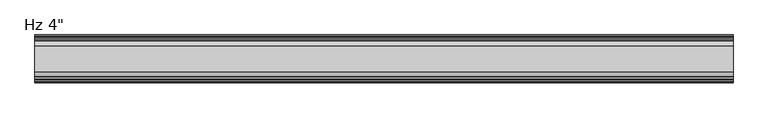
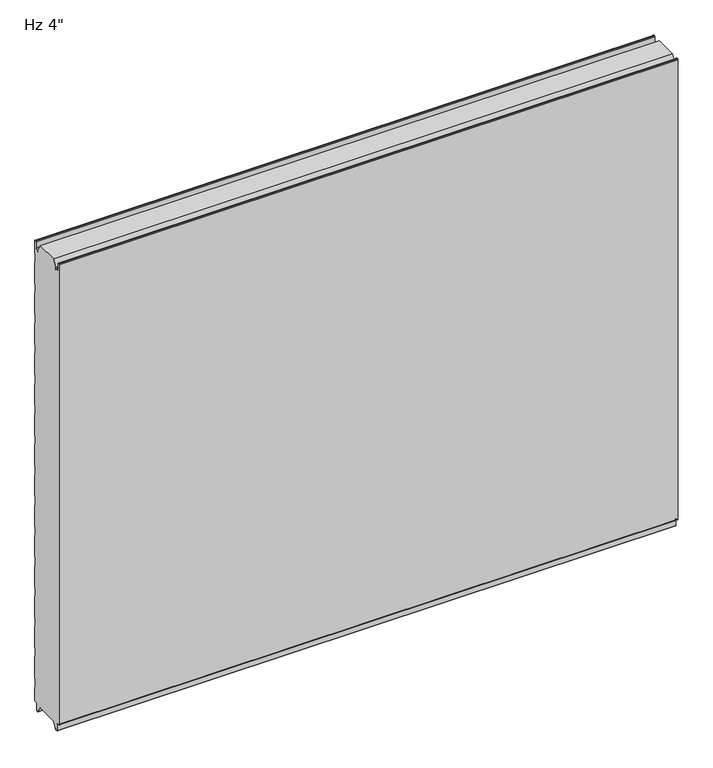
"""IFC4 building model written with IfcOpenShell, lengths in millimetres: plate geometry."""

from ifc_helpers import new_model, si_unit, frame, origin, place, context, project, spatial, polyline, circle_curve, source, transform, mapped, element, save
from ifc_brep_helpers import plane_surface, cylinder_surface, revolved_surface, advanced_brep


def plate_d1124c66(model_context):
    return source(origin(), model_context, "Body", "AdvancedBrep", [
        advanced_brep(
        [(-730.0, -98.6227194, 3.8499499), (-730.0, -100.5999935, 5.8272239), (-730.0, -100.6, 1150.8100652), (-730.0, -98.6227315, 1152.7873337), (-730.0, -97.5806329, 1152.7873337), (-730.0, -95.6033643, 1150.8100652), (-730.0, -95.6033643, 1136.6216802), (-730.0, -93.0154878, 1134.0338036), (-730.0, -88.6950697, 1134.0338036), (-730.0, -88.1060762, 1133.4253365), (-730.0, -88.1060762, 1131.0482432), (-730.0, -87.1066023, 1131.0482432), (-730.0, -87.1066023, 1136.4905123), (-730.0, -77.8490865, 1152.525), (-730.0, -23.7509179, 1152.525), (-730.0, -14.4934021, 1136.4905123), (-730.0, -14.4934021, 1131.0482432), (-730.0, -13.4939282, 1131.0482432), (-730.0, -13.4939282, 1133.4253365), (-730.0, -12.9049347, 1134.0338036), (-730.0, -8.5845165, 1134.0338036), (-730.0, -5.99664, 1136.6216802), (-730.0, -5.99664, 1150.8100652), (-730.0, -4.0193715, 1152.7873337), (-730.0, -2.9772729, 1152.7873337), (-730.0, -1.0000044, 1150.8100652), (-730.0, -1.0000044, 1118.6385351), (-730.0, -2.1911595, 1117.5660142), (-730.0, -2.1911595, 1097.7830195), (-730.0, -1.0, 1096.7104947), (-730.0, -1.0, 1043.0159187), (-730.0, -2.1911595, 1041.9433939), (-730.0, -2.1911595, 1022.1603992), (-730.0, -1.0, 1021.0878744), (-730.0, -1.0, 967.3932985), (-730.0, -2.1911595, 966.3207736), (-730.0, -2.1911595, 946.537779), (-730.0, -1.0, 945.4652541), (-730.0, -1.0, 891.7706782), (-730.0, -2.1911595, 890.6981534), (-730.0, -2.1911595, 870.9151587), (-730.0, -1.0, 869.8426339), (-730.0, -1.0, 816.148058), (-730.0, -2.1911595, 815.0755331), (-730.0, -2.1911595, 795.2925384), (-730.0, -1.0, 794.2200136), (-730.0, -1.0, 740.5254377), (-730.0, -2.1911595, 739.4529129), (-730.0, -2.1911595, 719.6699182), (-730.0, -1.0, 718.5973933), (-730.0, -1.0, 664.9028174), (-730.0, -2.1911595, 663.8302926), (-730.0, -2.1911595, 644.0472979), (-730.0, -1.0, 642.9747731), (-730.0, -1.0, 589.2801972), (-730.0, -2.1911595, 588.2076723), (-730.0, -2.1911595, 568.4246776), (-730.0, -1.0, 567.3521528), (-730.0, -1.0, 513.6575769), (-730.0, -2.1911595, 512.5850521), (-730.0, -2.1911595, 492.8020574), (-730.0, -1.0, 491.7295325), (-730.0, -1.0, 438.0349566), (-730.0, -2.1911595, 436.9624318), (-730.0, -2.1911595, 417.1794371), (-730.0, -1.0, 416.1069123), (-730.0, -1.0, 362.4123364), (-730.0, -2.1911595, 361.3398115), (-730.0, -2.1911595, 341.5568169), (-730.0, -1.0, 340.484292), (-730.0, -1.0, 286.7897161), (-730.0, -2.1911595, 285.7171913), (-730.0, -2.1911595, 265.9341966), (-730.0, -1.0, 264.8616718), (-730.0, -1.0, 211.1670958), (-730.0, -2.1911595, 210.094571), (-730.0, -2.1911595, 190.3115763), (-730.0, -1.0, 189.2390515), (-730.0, -1.0, 135.5444756), (-730.0, -2.1911595, 134.4719507), (-730.0, -2.1911595, 114.6889561), (-730.0, -1.0, 113.6164312), (-730.0, -1.0, 59.9218553), (-730.0, -2.1911595, 58.8493305), (-730.0, -2.1911595, 39.0663358), (-730.0, -1.0000109, 37.993811), (-730.0, -1.0000109, 5.8272239), (-730.0, -2.9772849, 3.8499499), (-730.0, -5.2691749, 3.8499499), (-730.0, -9.246442, -0.1273173), (-730.0, -9.246442, -15.7237417), (-730.0, -9.8343189, -16.3116186), (-730.0, -12.9058679, -16.3116186), (-730.0, -13.4937446, -15.723742), (-730.0, -13.4937446, -13.3687064), (-730.0, -14.4937446, -13.3687064), (-730.0, -14.4937446, -15.6582851), (-730.0, -23.7509179, 0.0), (-730.0, -77.8490865, 0.0), (-730.0, -87.1062598, -15.6582851), (-730.0, -87.1062598, -13.3687064), (-730.0, -88.1062598, -13.3687064), (-730.0, -88.1062598, -15.723742), (-730.0, -88.6941365, -16.3116186), (-730.0, -91.7656854, -16.3116186), (-730.0, -92.3535623, -15.7237417), (-730.0, -92.3535623, -0.1273173), (-730.0, -96.3308295, 3.8499499), (730.0, -98.6227194, 3.8499499), (730.0, -96.3308295, 3.8499499), (730.0, -92.3535623, -0.1273173), (730.0, -92.3535623, -15.7237417), (730.0, -91.7656854, -16.3116186), (730.0, -88.6941365, -16.3116186), (730.0, -88.1062598, -15.723742), (730.0, -88.1062598, -13.3687064), (730.0, -87.1062598, -13.3687064), (730.0, -87.1062598, -15.6582851), (730.0, -77.8490865, 0.0), (730.0, -23.7509179, 0.0), (730.0, -14.4937446, -15.6582851), (730.0, -14.4937446, -13.3687064), (730.0, -13.4937446, -13.3687064), (730.0, -13.4937446, -15.723742), (730.0, -12.9058679, -16.3116186), (730.0, -9.8343189, -16.3116186), (730.0, -9.246442, -15.7237417), (730.0, -9.246442, -0.1273173), (730.0, -5.2691749, 3.8499499), (730.0, -2.9772849, 3.8499499), (730.0, -1.0000109, 5.8272239), (730.0, -1.0000109, 37.993811), (730.0, -2.1911595, 39.0663358), (730.0, -2.1911595, 58.8493305), (730.0, -1.0, 59.9218553), (730.0, -1.0, 113.6164312), (730.0, -2.1911595, 114.6889561), (730.0, -2.1911595, 134.4719507), (730.0, -1.0, 135.5444756), (730.0, -1.0, 189.2390515), (730.0, -2.1911595, 190.3115763), (730.0, -2.1911595, 210.094571), (730.0, -1.0, 211.1670958), (730.0, -1.0, 264.8616718), (730.0, -2.1911595, 265.9341966), (730.0, -2.1911595, 285.7171913), (730.0, -1.0, 286.7897161), (730.0, -1.0, 340.484292), (730.0, -2.1911595, 341.5568169), (730.0, -2.1911595, 361.3398115), (730.0, -1.0, 362.4123364), (730.0, -1.0, 416.1069123), (730.0, -2.1911595, 417.1794371), (730.0, -2.1911595, 436.9624318), (730.0, -1.0, 438.0349566), (730.0, -1.0, 491.7295325), (730.0, -2.1911595, 492.8020574), (730.0, -2.1911595, 512.5850521), (730.0, -1.0, 513.6575769), (730.0, -1.0, 567.3521528), (730.0, -2.1911595, 568.4246776), (730.0, -2.1911595, 588.2076723), (730.0, -1.0, 589.2801972), (730.0, -1.0, 642.9747731), (730.0, -2.1911595, 644.0472979), (730.0, -2.1911595, 663.8302926), (730.0, -1.0, 664.9028174), (730.0, -1.0, 718.5973933), (730.0, -2.1911595, 719.6699182), (730.0, -2.1911595, 739.4529129), (730.0, -1.0, 740.5254377), (730.0, -1.0, 794.2200136), (730.0, -2.1911595, 795.2925384), (730.0, -2.1911595, 815.0755331), (730.0, -1.0, 816.148058), (730.0, -1.0, 869.8426339), (730.0, -2.1911595, 870.9151587), (730.0, -2.1911595, 890.6981534), (730.0, -1.0, 891.7706782), (730.0, -1.0, 945.4652541), (730.0, -2.1911595, 946.537779), (730.0, -2.1911595, 966.3207736), (730.0, -1.0, 967.3932985), (730.0, -1.0, 1021.0878744), (730.0, -2.1911595, 1022.1603992), (730.0, -2.1911595, 1041.9433939), (730.0, -1.0, 1043.0159187), (730.0, -1.0, 1096.7104947), (730.0, -2.1911595, 1097.7830195), (730.0, -2.1911595, 1117.5660142), (730.0, -1.0000044, 1118.6385351), (730.0, -1.0000044, 1150.8100652), (730.0, -2.9772729, 1152.7873337), (730.0, -4.0193715, 1152.7873337), (730.0, -5.99664, 1150.8100652), (730.0, -5.99664, 1136.6216802), (730.0, -8.5845165, 1134.0338036), (730.0, -12.9049347, 1134.0338036), (730.0, -13.4939282, 1133.4253365), (730.0, -13.4939282, 1131.0482432), (730.0, -14.4934021, 1131.0482432), (730.0, -14.4934021, 1136.4905123), (730.0, -23.7509179, 1152.525), (730.0, -77.8490865, 1152.525), (730.0, -87.1066023, 1136.4905123), (730.0, -87.1066023, 1131.0482432), (730.0, -88.1060762, 1131.0482432), (730.0, -88.1060762, 1133.4253365), (730.0, -88.6950697, 1134.0338036), (730.0, -93.0154878, 1134.0338036), (730.0, -95.6033643, 1136.6216802), (730.0, -95.6033643, 1150.8100652), (730.0, -97.5806329, 1152.7873337), (730.0, -98.6227315, 1152.7873337), (730.0, -100.6, 1150.8100652), (730.0, -100.6, 5.8272239)],
        [
            (0, 1, circle_curve(frame((-730.0, -98.6227194, 5.8272239), z_axis=(-1.0, 0.0, 0.0), x_axis=(0.0, 0.0, -1.0)), 1.977274)),
            (1, 2),
            (2, 3, circle_curve(frame((-730.0, -98.6227315, 1150.8100652), z_axis=(-1.0, 0.0, 0.0), x_axis=(0.0, 0.0, -1.0)), 1.9772685)),
            (3, 4),
            (4, 5, circle_curve(frame((-730.0, -97.5806329, 1150.8100652), z_axis=(-1.0, 0.0, 0.0), x_axis=(0.0, 0.0, -1.0)), 1.9772685)),
            (5, 6),
            (6, 7, circle_curve(frame((-730.0, -93.0154878, 1136.6216802), z_axis=(1.0, 0.0, 0.0), x_axis=(0.0, 0.0, -1.0)), 2.5878765)),
            (7, 8),
            (8, 9, circle_curve(frame((-730.0, -88.6950697, 1133.4444985), z_axis=(-1.0, 0.0, 0.0), x_axis=(0.0, 0.0, -1.0)), 0.5893051)),
            (9, 10),
            (10, 11),
            (11, 12),
            (12, 13),
            (13, 14),
            (14, 15),
            (15, 16),
            (16, 17),
            (17, 18),
            (18, 19, circle_curve(frame((-730.0, -12.9049347, 1133.4444985), z_axis=(-1.0, 0.0, 0.0), x_axis=(0.0, 1.0, 0.0)), 0.5893051)),
            (19, 20),
            (20, 21, circle_curve(frame((-730.0, -8.5845165, 1136.6216802), z_axis=(1.0, 0.0, 0.0), x_axis=(0.0, 1.0, 0.0)), 2.5878765)),
            (21, 22),
            (22, 23, circle_curve(frame((-730.0, -4.0193715, 1150.8100652), z_axis=(-1.0, 0.0, 0.0), x_axis=(0.0, 1.0, 0.0)), 1.9772685)),
            (23, 24),
            (24, 25, circle_curve(frame((-730.0, -2.9772729, 1150.8100652), z_axis=(-1.0, 0.0, 0.0), x_axis=(0.0, 1.0, 0.0)), 1.9772685)),
            (25, 26),
            (26, 27),
            (27, 28),
            (28, 29),
            (29, 30),
            (30, 31),
            (31, 32),
            (32, 33),
            (33, 34),
            (34, 35),
            (35, 36),
            (36, 37),
            (37, 38),
            (38, 39),
            (39, 40),
            (40, 41),
            (41, 42),
            (42, 43),
            (43, 44),
            (44, 45),
            (45, 46),
            (46, 47),
            (47, 48),
            (48, 49),
            (49, 50),
            (50, 51),
            (51, 52),
            (52, 53),
            (53, 54),
            (54, 55),
            (55, 56),
            (56, 57),
            (57, 58),
            (58, 59),
            (59, 60),
            (60, 61),
            (61, 62),
            (62, 63),
            (63, 64),
            (64, 65),
            (65, 66),
            (66, 67),
            (67, 68),
            (68, 69),
            (69, 70),
            (70, 71),
            (71, 72),
            (72, 73),
            (73, 74),
            (74, 75),
            (75, 76),
            (76, 77),
            (77, 78),
            (78, 79),
            (79, 80),
            (80, 81),
            (81, 82),
            (82, 83),
            (83, 84),
            (84, 85),
            (85, 86),
            (86, 87, circle_curve(frame((-730.0, -2.9772849, 5.8272239), z_axis=(-1.0, 0.0, 0.0), x_axis=(0.0, 1.0, 0.0)), 1.977274)),
            (87, 88),
            (88, 89, circle_curve(frame((-730.0, -5.2691749, -0.1273173), z_axis=(1.0, 0.0, 0.0), x_axis=(0.0, 1.0, 0.0)), 3.9772671)),
            (89, 90),
            (90, 91, circle_curve(frame((-730.0, -9.8343189, -15.7237417), z_axis=(-1.0, 0.0, 0.0), x_axis=(0.0, 1.0, 0.0)), 0.5878769)),
            (91, 92),
            (92, 93, circle_curve(frame((-730.0, -12.9058679, -15.723742), z_axis=(-1.0, 0.0, 0.0), x_axis=(0.0, 1.0, 0.0)), 0.5878766)),
            (93, 94),
            (94, 95),
            (95, 96),
            (96, 97),
            (97, 98),
            (98, 99),
            (99, 100),
            (100, 101),
            (101, 102),
            (102, 103, circle_curve(frame((-730.0, -88.6941365, -15.723742), z_axis=(-1.0, 0.0, 0.0), x_axis=(0.0, 0.0, -1.0)), 0.5878766)),
            (103, 104),
            (104, 105, circle_curve(frame((-730.0, -91.7656854, -15.7237417), z_axis=(-1.0, 0.0, 0.0), x_axis=(0.0, 0.0, -1.0)), 0.5878769)),
            (105, 106),
            (106, 107, circle_curve(frame((-730.0, -96.3308295, -0.1273173), z_axis=(1.0, 0.0, 0.0), x_axis=(0.0, 0.0, -1.0)), 3.9772671)),
            (107, 0),
            (108, 109),
            (109, 110, circle_curve(frame((730.0, -96.3308295, -0.1273173), z_axis=(-1.0, 0.0, 0.0), x_axis=(0.0, 0.0, -1.0)), 3.9772671)),
            (110, 111),
            (111, 112, circle_curve(frame((730.0, -91.7656854, -15.7237417), z_axis=(1.0, 0.0, 0.0), x_axis=(0.0, 0.0, -1.0)), 0.5878769)),
            (112, 113),
            (113, 114, circle_curve(frame((730.0, -88.6941365, -15.723742), z_axis=(1.0, 0.0, 0.0), x_axis=(0.0, 0.0, -1.0)), 0.5878766)),
            (114, 115),
            (115, 116),
            (116, 117),
            (117, 118),
            (118, 119),
            (119, 120),
            (120, 121),
            (121, 122),
            (122, 123),
            (123, 124, circle_curve(frame((730.0, -12.9058679, -15.723742), z_axis=(1.0, 0.0, 0.0), x_axis=(0.0, 1.0, 0.0)), 0.5878766)),
            (124, 125),
            (125, 126, circle_curve(frame((730.0, -9.8343189, -15.7237417), z_axis=(1.0, 0.0, 0.0), x_axis=(0.0, 1.0, 0.0)), 0.5878769)),
            (126, 127),
            (127, 128, circle_curve(frame((730.0, -5.2691749, -0.1273173), z_axis=(-1.0, 0.0, 0.0), x_axis=(0.0, 1.0, 0.0)), 3.9772671)),
            (128, 129),
            (129, 130, circle_curve(frame((730.0, -2.9772849, 5.8272239), z_axis=(1.0, 0.0, 0.0), x_axis=(0.0, 1.0, 0.0)), 1.977274)),
            (130, 131),
            (131, 132),
            (132, 133),
            (133, 134),
            (134, 135),
            (135, 136),
            (136, 137),
            (137, 138),
            (138, 139),
            (139, 140),
            (140, 141),
            (141, 142),
            (142, 143),
            (143, 144),
            (144, 145),
            (145, 146),
            (146, 147),
            (147, 148),
            (148, 149),
            (149, 150),
            (150, 151),
            (151, 152),
            (152, 153),
            (153, 154),
            (154, 155),
            (155, 156),
            (156, 157),
            (157, 158),
            (158, 159),
            (159, 160),
            (160, 161),
            (161, 162),
            (162, 163),
            (163, 164),
            (164, 165),
            (165, 166),
            (166, 167),
            (167, 168),
            (168, 169),
            (169, 170),
            (170, 171),
            (171, 172),
            (172, 173),
            (173, 174),
            (174, 175),
            (175, 176),
            (176, 177),
            (177, 178),
            (178, 179),
            (179, 180),
            (180, 181),
            (181, 182),
            (182, 183),
            (183, 184),
            (184, 185),
            (185, 186),
            (186, 187),
            (187, 188),
            (188, 189),
            (189, 190),
            (190, 191),
            (191, 192, circle_curve(frame((730.0, -2.9772729, 1150.8100652), z_axis=(1.0, 0.0, 0.0), x_axis=(0.0, 1.0, 0.0)), 1.9772685)),
            (192, 193),
            (193, 194, circle_curve(frame((730.0, -4.0193715, 1150.8100652), z_axis=(1.0, 0.0, 0.0), x_axis=(0.0, 1.0, 0.0)), 1.9772685)),
            (194, 195),
            (195, 196, circle_curve(frame((730.0, -8.5845165, 1136.6216802), z_axis=(-1.0, 0.0, 0.0), x_axis=(0.0, 1.0, 0.0)), 2.5878765)),
            (196, 197),
            (197, 198, circle_curve(frame((730.0, -12.9049347, 1133.4444985), z_axis=(1.0, 0.0, 0.0), x_axis=(0.0, 1.0, 0.0)), 0.5893051)),
            (198, 199),
            (199, 200),
            (200, 201),
            (201, 202),
            (202, 203),
            (203, 204),
            (204, 205),
            (205, 206),
            (206, 207),
            (207, 208, circle_curve(frame((730.0, -88.6950697, 1133.4444985), z_axis=(1.0, 0.0, 0.0), x_axis=(0.0, 0.0, -1.0)), 0.5893051)),
            (208, 209),
            (209, 210, circle_curve(frame((730.0, -93.0154878, 1136.6216802), z_axis=(-1.0, 0.0, 0.0), x_axis=(0.0, 0.0, -1.0)), 2.5878765)),
            (210, 211),
            (211, 212, circle_curve(frame((730.0, -97.5806329, 1150.8100652), z_axis=(1.0, 0.0, 0.0), x_axis=(0.0, 0.0, -1.0)), 1.9772685)),
            (212, 213),
            (213, 214, circle_curve(frame((730.0, -98.6227315, 1150.8100652), z_axis=(1.0, 0.0, 0.0), x_axis=(0.0, 0.0, -1.0)), 1.9772685)),
            (214, 215),
            (215, 108, circle_curve(frame((730.0, -98.6227194, 5.8272239), z_axis=(1.0, 0.0, 0.0), x_axis=(0.0, 0.0, -1.0)), 1.977274)),
            (27, 189),
            (188, 28),
            (26, 190),
            (25, 191),
            (24, 192),
            (23, 193),
            (22, 194),
            (21, 195),
            (20, 196),
            (19, 197),
            (18, 198),
            (17, 199),
            (16, 200),
            (15, 201),
            (14, 202),
            (96, 120),
            (119, 97),
            (95, 121),
            (94, 122),
            (93, 123),
            (92, 124),
            (91, 125),
            (90, 126),
            (89, 127),
            (88, 128),
            (87, 129),
            (86, 130),
            (85, 131),
            (84, 132),
            (83, 133),
            (82, 134),
            (81, 135),
            (80, 136),
            (79, 137),
            (78, 138),
            (77, 139),
            (76, 140),
            (75, 141),
            (74, 142),
            (73, 143),
            (72, 144),
            (71, 145),
            (70, 146),
            (69, 147),
            (68, 148),
            (67, 149),
            (66, 150),
            (65, 151),
            (64, 152),
            (63, 153),
            (62, 154),
            (61, 155),
            (60, 156),
            (59, 157),
            (58, 158),
            (57, 159),
            (56, 160),
            (55, 161),
            (54, 162),
            (53, 163),
            (52, 164),
            (51, 165),
            (50, 166),
            (49, 167),
            (48, 168),
            (47, 169),
            (46, 170),
            (45, 171),
            (44, 172),
            (43, 173),
            (42, 174),
            (41, 175),
            (40, 176),
            (39, 177),
            (38, 178),
            (37, 179),
            (36, 180),
            (35, 181),
            (34, 182),
            (33, 183),
            (32, 184),
            (31, 185),
            (30, 186),
            (29, 187),
            (13, 203),
            (118, 98),
            (107, 109),
            (108, 0),
            (106, 110),
            (105, 111),
            (104, 112),
            (103, 113),
            (102, 114),
            (101, 115),
            (100, 116),
            (99, 117),
            (12, 204),
            (11, 205),
            (10, 206),
            (9, 207),
            (8, 208),
            (7, 209),
            (6, 210),
            (5, 211),
            (4, 212),
            (3, 213),
            (2, 214),
            (1, 215),
        ],
        [
            plane_surface(frame((-730.0, -100.6, 576.2625), z_axis=(-1.0, 0.0, 0.0), x_axis=(0.0, -1.0, 0.0))),
            plane_surface(frame((730.0, -100.6, 576.2625), z_axis=(1.0, 0.0, 0.0), x_axis=(0.0, -1.0, 0.0))),
            plane_surface(frame((-730.0, -2.1911595, 1097.7830195), z_axis=(0.0, 1.0, 0.0), x_axis=(1.0, 0.0, 0.0))),
            plane_surface(frame((-730.0, -2.1911595, 1117.5660142), z_axis=(0.0, 0.669130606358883, -0.7431448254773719), x_axis=(1.0, 0.0, 0.0))),
            plane_surface(frame((-730.0, -1.0000044, 1118.6385351), z_axis=(0.0, 1.0, 0.0), x_axis=(1.0, 0.0, 0.0))),
            cylinder_surface(frame((-730.0, -2.9772729, 1150.8100652), z_axis=(-1.0, 0.0, 0.0), x_axis=(0.0, 1.0, 0.0)), 1.9772685),
            plane_surface(frame((-730.0, -2.9772729, 1152.7873337), z_axis=(0.0, 0.0, 1.0), x_axis=(1.0, 0.0, 0.0))),
            cylinder_surface(frame((-730.0, -4.0193715, 1150.8100652), z_axis=(-1.0, 0.0, 0.0), x_axis=(0.0, 1.0, 0.0)), 1.9772685),
            plane_surface(frame((-730.0, -5.99664, 1150.8100652), z_axis=(0.0, -1.0, 0.0), x_axis=(1.0, 0.0, 0.0))),
            revolved_surface(polyline([(730.0, -5.996639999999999, 1136.6216802), (-730.0, -5.996639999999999, 1136.6216802)]), (-730.0, -8.5845165, 1136.6216802), (1.0, 0.0, 0.0)),
            plane_surface(frame((-730.0, -8.5845165, 1134.0338036), z_axis=(0.0, 0.0, 1.0), x_axis=(1.0, 0.0, 0.0))),
            cylinder_surface(frame((-730.0, -12.9049347, 1133.4444985), z_axis=(-1.0, 0.0, 0.0), x_axis=(0.0, 1.0, 0.0)), 0.5893051),
            plane_surface(frame((-730.0, -13.4939282, 1133.4253365), z_axis=(0.0, -1.0, 0.0), x_axis=(1.0, 0.0, 0.0))),
            plane_surface(frame((-730.0, -13.4939282, 1131.0482432), z_axis=(0.0, 0.0, 1.0), x_axis=(1.0, 0.0, 0.0))),
            plane_surface(frame((-730.0, -14.4934021, 1131.0482432), z_axis=(0.0, 1.0, 0.0), x_axis=(1.0, 0.0, 0.0))),
            plane_surface(frame((-730.0, -14.4934021, 1136.4905123), z_axis=(0.0, 0.8660254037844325, 0.5000000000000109), x_axis=(1.0, 0.0, 0.0))),
            plane_surface(frame((-730.0, -23.7509179, 0.0), z_axis=(0.0, -0.8608169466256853, -0.5089147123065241), x_axis=(1.0, 0.0, 0.0))),
            plane_surface(frame((-730.0, -14.4937446, -15.6582851), z_axis=(0.0, 1.0, 0.0), x_axis=(1.0, 0.0, 0.0))),
            plane_surface(frame((-730.0, -14.4937446, -13.3687064), z_axis=(0.0, 0.0, -1.0), x_axis=(1.0, 0.0, 0.0))),
            plane_surface(frame((-730.0, -13.4937446, -13.3687064), z_axis=(0.0, -1.0, 0.0), x_axis=(1.0, 0.0, 0.0))),
            cylinder_surface(frame((-730.0, -12.9058679, -15.723742), z_axis=(-1.0, 0.0, 0.0), x_axis=(0.0, 1.0, 0.0)), 0.5878766),
            plane_surface(frame((-730.0, -12.9058679, -16.3116186), z_axis=(0.0, 0.0, -1.0), x_axis=(1.0, 0.0, 0.0))),
            cylinder_surface(frame((-730.0, -9.8343189, -15.7237417), z_axis=(-1.0, 0.0, 0.0), x_axis=(0.0, 1.0, 0.0)), 0.5878769),
            plane_surface(frame((-730.0, -9.246442, -15.7237417), z_axis=(0.0, 1.0, 0.0), x_axis=(1.0, 0.0, 0.0))),
            revolved_surface(polyline([(730.0, -1.2919078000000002, -0.1273173), (-730.0, -1.2919078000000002, -0.1273173)]), (-730.0, -5.2691749, -0.1273173), (1.0, 0.0, 0.0)),
            plane_surface(frame((-730.0, -5.2691749, 3.8499499), z_axis=(0.0, 0.0, -1.0), x_axis=(1.0, 0.0, 0.0))),
            cylinder_surface(frame((-730.0, -2.9772849, 5.8272239), z_axis=(-1.0, 0.0, 0.0), x_axis=(0.0, 1.0, 0.0)), 1.977274),
            plane_surface(frame((-730.0, -1.0000109, 5.8272239), z_axis=(0.0, 1.0, 0.0), x_axis=(1.0, 0.0, 0.0))),
            plane_surface(frame((-730.0, -1.0000109, 37.993811), z_axis=(0.0, 0.6691339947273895, 0.7431417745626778), x_axis=(1.0, 0.0, 0.0))),
            plane_surface(frame((-730.0, -2.1911595, 39.0663358), z_axis=(0.0, 1.0, 0.0), x_axis=(1.0, 0.0, 0.0))),
            plane_surface(frame((-730.0, -2.1911595, 58.8493305), z_axis=(0.0, 0.6691306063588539, -0.7431448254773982), x_axis=(1.0, 0.0, 0.0))),
            plane_surface(frame((-730.0, -1.0, 59.9218553), z_axis=(0.0, 1.0, 0.0), x_axis=(1.0, 0.0, 0.0))),
            plane_surface(frame((-730.0, -1.0, 113.6164312), z_axis=(0.0, 0.6691306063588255, 0.7431448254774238), x_axis=(1.0, 0.0, 0.0))),
            plane_surface(frame((-730.0, -2.1911595, 114.6889561), z_axis=(0.0, 1.0, 0.0), x_axis=(1.0, 0.0, 0.0))),
            plane_surface(frame((-730.0, -2.1911595, 134.4719507), z_axis=(0.0, 0.6691306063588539, -0.7431448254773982), x_axis=(1.0, 0.0, 0.0))),
            plane_surface(frame((-730.0, -1.0, 135.5444756), z_axis=(0.0, 1.0, 0.0), x_axis=(1.0, 0.0, 0.0))),
            plane_surface(frame((-730.0, -1.0, 189.2390515), z_axis=(0.0, 0.669130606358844, 0.743144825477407), x_axis=(1.0, 0.0, 0.0))),
            plane_surface(frame((-730.0, -2.1911595, 190.3115763), z_axis=(0.0, 1.0, 0.0), x_axis=(1.0, 0.0, 0.0))),
            plane_surface(frame((-730.0, -2.1911595, 210.094571), z_axis=(0.0, 0.6691306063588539, -0.7431448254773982), x_axis=(1.0, 0.0, 0.0))),
            plane_surface(frame((-730.0, -1.0, 211.1670958), z_axis=(0.0, 1.0, 0.0), x_axis=(1.0, 0.0, 0.0))),
            plane_surface(frame((-730.0, -1.0, 264.8616718), z_axis=(0.0, 0.6691306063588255, 0.7431448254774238), x_axis=(1.0, 0.0, 0.0))),
            plane_surface(frame((-730.0, -2.1911595, 265.9341966), z_axis=(0.0, 1.0, 0.0), x_axis=(1.0, 0.0, 0.0))),
            plane_surface(frame((-730.0, -2.1911595, 285.7171913), z_axis=(0.0, 0.6691306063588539, -0.7431448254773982), x_axis=(1.0, 0.0, 0.0))),
            plane_surface(frame((-730.0, -1.0, 286.7897161), z_axis=(0.0, 1.0, 0.0), x_axis=(1.0, 0.0, 0.0))),
            plane_surface(frame((-730.0, -1.0, 340.484292), z_axis=(0.0, 0.669130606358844, 0.743144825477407), x_axis=(1.0, 0.0, 0.0))),
            plane_surface(frame((-730.0, -2.1911595, 341.5568169), z_axis=(0.0, 1.0, 0.0), x_axis=(1.0, 0.0, 0.0))),
            plane_surface(frame((-730.0, -2.1911595, 361.3398115), z_axis=(0.0, 0.6691306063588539, -0.7431448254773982), x_axis=(1.0, 0.0, 0.0))),
            plane_surface(frame((-730.0, -1.0, 362.4123364), z_axis=(0.0, 1.0, 0.0), x_axis=(1.0, 0.0, 0.0))),
            plane_surface(frame((-730.0, -1.0, 416.1069123), z_axis=(0.0, 0.669130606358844, 0.743144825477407), x_axis=(1.0, 0.0, 0.0))),
            plane_surface(frame((-730.0, -2.1911595, 417.1794371), z_axis=(0.0, 1.0, 0.0), x_axis=(1.0, 0.0, 0.0))),
            plane_surface(frame((-730.0, -2.1911595, 436.9624318), z_axis=(0.0, 0.6691306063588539, -0.7431448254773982), x_axis=(1.0, 0.0, 0.0))),
            plane_surface(frame((-730.0, -1.0, 438.0349566), z_axis=(0.0, 1.0, 0.0), x_axis=(1.0, 0.0, 0.0))),
            plane_surface(frame((-730.0, -1.0, 491.7295325), z_axis=(0.0, 0.6691306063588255, 0.7431448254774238), x_axis=(1.0, 0.0, 0.0))),
            plane_surface(frame((-730.0, -2.1911595, 492.8020574), z_axis=(0.0, 1.0, 0.0), x_axis=(1.0, 0.0, 0.0))),
            plane_surface(frame((-730.0, -2.1911595, 512.5850521), z_axis=(0.0, 0.6691306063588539, -0.7431448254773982), x_axis=(1.0, 0.0, 0.0))),
            plane_surface(frame((-730.0, -1.0, 513.6575769), z_axis=(0.0, 1.0, 0.0), x_axis=(1.0, 0.0, 0.0))),
            plane_surface(frame((-730.0, -1.0, 567.3521528), z_axis=(0.0, 0.669130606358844, 0.743144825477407), x_axis=(1.0, 0.0, 0.0))),
            plane_surface(frame((-730.0, -2.1911595, 568.4246776), z_axis=(0.0, 1.0, 0.0), x_axis=(1.0, 0.0, 0.0))),
            plane_surface(frame((-730.0, -2.1911595, 588.2076723), z_axis=(0.0, 0.6691306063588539, -0.7431448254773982), x_axis=(1.0, 0.0, 0.0))),
            plane_surface(frame((-730.0, -1.0, 589.2801972), z_axis=(0.0, 1.0, 0.0), x_axis=(1.0, 0.0, 0.0))),
            plane_surface(frame((-730.0, -1.0, 642.9747731), z_axis=(0.0, 0.6691306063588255, 0.7431448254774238), x_axis=(1.0, 0.0, 0.0))),
            plane_surface(frame((-730.0, -2.1911595, 644.0472979), z_axis=(0.0, 1.0, 0.0), x_axis=(1.0, 0.0, 0.0))),
            plane_surface(frame((-730.0, -2.1911595, 663.8302926), z_axis=(0.0, 0.6691306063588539, -0.7431448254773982), x_axis=(1.0, 0.0, 0.0))),
            plane_surface(frame((-730.0, -1.0, 664.9028174), z_axis=(0.0, 1.0, 0.0), x_axis=(1.0, 0.0, 0.0))),
            plane_surface(frame((-730.0, -1.0, 718.5973933), z_axis=(0.0, 0.669130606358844, 0.743144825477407), x_axis=(1.0, 0.0, 0.0))),
            plane_surface(frame((-730.0, -2.1911595, 719.6699182), z_axis=(0.0, 1.0, 0.0), x_axis=(1.0, 0.0, 0.0))),
            plane_surface(frame((-730.0, -2.1911595, 739.4529129), z_axis=(0.0, 0.6691306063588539, -0.7431448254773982), x_axis=(1.0, 0.0, 0.0))),
            plane_surface(frame((-730.0, -1.0, 740.5254377), z_axis=(0.0, 1.0, 0.0), x_axis=(1.0, 0.0, 0.0))),
            plane_surface(frame((-730.0, -1.0, 794.2200136), z_axis=(0.0, 0.6691306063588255, 0.7431448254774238), x_axis=(1.0, 0.0, 0.0))),
            plane_surface(frame((-730.0, -2.1911595, 795.2925384), z_axis=(0.0, 1.0, 0.0), x_axis=(1.0, 0.0, 0.0))),
            plane_surface(frame((-730.0, -2.1911595, 815.0755331), z_axis=(0.0, 0.6691306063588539, -0.7431448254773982), x_axis=(1.0, 0.0, 0.0))),
            plane_surface(frame((-730.0, -1.0, 816.148058), z_axis=(0.0, 1.0, 0.0), x_axis=(1.0, 0.0, 0.0))),
            plane_surface(frame((-730.0, -1.0, 869.8426339), z_axis=(0.0, 0.669130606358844, 0.743144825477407), x_axis=(1.0, 0.0, 0.0))),
            plane_surface(frame((-730.0, -2.1911595, 870.9151587), z_axis=(0.0, 1.0, 0.0), x_axis=(1.0, 0.0, 0.0))),
            plane_surface(frame((-730.0, -2.1911595, 890.6981534), z_axis=(0.0, 0.6691306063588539, -0.7431448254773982), x_axis=(1.0, 0.0, 0.0))),
            plane_surface(frame((-730.0, -1.0, 891.7706782), z_axis=(0.0, 1.0, 0.0), x_axis=(1.0, 0.0, 0.0))),
            plane_surface(frame((-730.0, -1.0, 945.4652541), z_axis=(0.0, 0.669130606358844, 0.743144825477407), x_axis=(1.0, 0.0, 0.0))),
            plane_surface(frame((-730.0, -2.1911595, 946.537779), z_axis=(0.0, 1.0, 0.0), x_axis=(1.0, 0.0, 0.0))),
            plane_surface(frame((-730.0, -2.1911595, 966.3207736), z_axis=(0.0, 0.6691306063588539, -0.7431448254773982), x_axis=(1.0, 0.0, 0.0))),
            plane_surface(frame((-730.0, -1.0, 967.3932985), z_axis=(0.0, 1.0, 0.0), x_axis=(1.0, 0.0, 0.0))),
            plane_surface(frame((-730.0, -1.0, 1021.0878744), z_axis=(0.0, 0.669130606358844, 0.743144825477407), x_axis=(1.0, 0.0, 0.0))),
            plane_surface(frame((-730.0, -2.1911595, 1022.1603992), z_axis=(0.0, 1.0, 0.0), x_axis=(1.0, 0.0, 0.0))),
            plane_surface(frame((-730.0, -2.1911595, 1041.9433939), z_axis=(0.0, 0.6691306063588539, -0.7431448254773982), x_axis=(1.0, 0.0, 0.0))),
            plane_surface(frame((-730.0, -1.0, 1043.0159187), z_axis=(0.0, 1.0, 0.0), x_axis=(1.0, 0.0, 0.0))),
            plane_surface(frame((-730.0, -1.0, 1096.7104947), z_axis=(0.0, 0.669130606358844, 0.743144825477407), x_axis=(1.0, 0.0, 0.0))),
            plane_surface(frame((-730.0, -77.8490865, 1152.525), z_axis=(0.0, 0.0, 1.0), x_axis=(-1.0, 0.0, 0.0))),
            plane_surface(frame((-730.0, -77.8490865, 0.0), z_axis=(0.0, 0.0, -1.0), x_axis=(1.0, 0.0, 0.0))),
            plane_surface(frame((-730.0, -98.6227194, 3.8499499), z_axis=(0.0, 0.0, -1.0), x_axis=(1.0, 0.0, 0.0))),
            revolved_surface(polyline([(730.0, -96.3308295, -4.1045844), (-730.0, -96.3308295, -4.1045844)]), (-730.0, -96.3308295, -0.1273173), (1.0, 0.0, 0.0)),
            plane_surface(frame((-730.0, -92.3535623, -0.1273173), z_axis=(0.0, -1.0, 0.0), x_axis=(1.0, 0.0, 0.0))),
            cylinder_surface(frame((-730.0, -91.7656854, -15.7237417), z_axis=(-1.0, 0.0, 0.0), x_axis=(0.0, 0.0, -1.0)), 0.5878769),
            plane_surface(frame((-730.0, -91.7656854, -16.3116186), z_axis=(0.0, 0.0, -1.0), x_axis=(1.0, 0.0, 0.0))),
            cylinder_surface(frame((-730.0, -88.6941365, -15.723742), z_axis=(-1.0, 0.0, 0.0), x_axis=(0.0, 0.0, -1.0)), 0.5878766),
            plane_surface(frame((-730.0, -88.1062598, -15.723742), z_axis=(0.0, 1.0, 0.0), x_axis=(1.0, 0.0, 0.0))),
            plane_surface(frame((-730.0, -88.1062598, -13.3687064), z_axis=(0.0, 0.0, -1.0), x_axis=(1.0, 0.0, 0.0))),
            plane_surface(frame((-730.0, -87.1062598, -13.3687064), z_axis=(0.0, -1.0, 0.0), x_axis=(1.0, 0.0, 0.0))),
            plane_surface(frame((-730.0, -87.1062598, -15.6582851), z_axis=(0.0, 0.8608169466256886, -0.5089147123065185), x_axis=(1.0, 0.0, 0.0))),
            plane_surface(frame((-730.0, -77.8490865, 1152.525), z_axis=(0.0, -0.8660254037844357, 0.5000000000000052), x_axis=(1.0, 0.0, 0.0))),
            plane_surface(frame((-730.0, -87.1066023, 1136.4905123), z_axis=(0.0, -1.0, 0.0), x_axis=(1.0, 0.0, 0.0))),
            plane_surface(frame((-730.0, -87.1066023, 1131.0482432), z_axis=(0.0, 0.0, 1.0), x_axis=(1.0, 0.0, 0.0))),
            plane_surface(frame((-730.0, -88.1060762, 1131.0482432), z_axis=(0.0, 1.0, 0.0), x_axis=(1.0, 0.0, 0.0))),
            cylinder_surface(frame((-730.0, -88.6950697, 1133.4444985), z_axis=(-1.0, 0.0, 0.0), x_axis=(0.0, 0.0, -1.0)), 0.5893051),
            plane_surface(frame((-730.0, -88.6950697, 1134.0338036), z_axis=(0.0, 0.0, 1.0), x_axis=(1.0, 0.0, 0.0))),
            revolved_surface(polyline([(730.0, -93.0154878, 1134.0338037), (-730.0, -93.0154878, 1134.0338037)]), (-730.0, -93.0154878, 1136.6216802), (1.0, 0.0, 0.0)),
            plane_surface(frame((-730.0, -95.6033643, 1136.6216802), z_axis=(0.0, 1.0, 0.0), x_axis=(1.0, 0.0, 0.0))),
            cylinder_surface(frame((-730.0, -97.5806329, 1150.8100652), z_axis=(-1.0, 0.0, 0.0), x_axis=(0.0, 0.0, -1.0)), 1.9772685),
            plane_surface(frame((-730.0, -97.5806329, 1152.7873337), z_axis=(0.0, 0.0, 1.0), x_axis=(1.0, 0.0, 0.0))),
            cylinder_surface(frame((-730.0, -98.6227315, 1150.8100652), z_axis=(-1.0, 0.0, 0.0), x_axis=(0.0, 0.0, -1.0)), 1.9772685),
            plane_surface(frame((-730.0, -100.6, 1150.8100652), z_axis=(0.0, -1.0, 0.0), x_axis=(1.0, 0.0, 0.0))),
            cylinder_surface(frame((-730.0, -98.6227194, 5.8272239), z_axis=(-1.0, 0.0, 0.0), x_axis=(0.0, 0.0, -1.0)), 1.977274),
        ],
        [
            (0, [[1, 2, 3, 4, 5, 6, 7, 8, 9, 10, 11, 12, 13, 14, 15, 16, 17, 18, 19, 20, 21, 22, 23, 24, 25, 26, 27, 28, 29, 30, 31, 32, 33, 34, 35, 36, 37, 38, 39, 40, 41, 42, 43, 44, 45, 46, 47, 48, 49, 50, 51, 52, 53, 54, 55, 56, 57, 58, 59, 60, 61, 62, 63, 64, 65, 66, 67, 68, 69, 70, 71, 72, 73, 74, 75, 76, 77, 78, 79, 80, 81, 82, 83, 84, 85, 86, 87, 88, 89, 90, 91, 92, 93, 94, 95, 96, 97, 98, 99, 100, 101, 102, 103, 104, 105, 106, 107, 108]]),
            (1, [[109, 110, 111, 112, 113, 114, 115, 116, 117, 118, 119, 120, 121, 122, 123, 124, 125, 126, 127, 128, 129, 130, 131, 132, 133, 134, 135, 136, 137, 138, 139, 140, 141, 142, 143, 144, 145, 146, 147, 148, 149, 150, 151, 152, 153, 154, 155, 156, 157, 158, 159, 160, 161, 162, 163, 164, 165, 166, 167, 168, 169, 170, 171, 172, 173, 174, 175, 176, 177, 178, 179, 180, 181, 182, 183, 184, 185, 186, 187, 188, 189, 190, 191, 192, 193, 194, 195, 196, 197, 198, 199, 200, 201, 202, 203, 204, 205, 206, 207, 208, 209, 210, 211, 212, 213, 214, 215, 216]]),
            (2, [[217, -189, 218, -28]]),
            (3, [[219, -190, -217, -27]]),
            (4, [[220, -191, -219, -26]]),
            (5, [[221, -192, -220, -25]]),
            (6, [[222, -193, -221, -24]]),
            (7, [[223, -194, -222, -23]]),
            (8, [[224, -195, -223, -22]]),
            (9, [[225, -196, -224, -21]]),
            (10, [[226, -197, -225, -20]]),
            (11, [[227, -198, -226, -19]]),
            (12, [[228, -199, -227, -18]]),
            (13, [[229, -200, -228, -17]]),
            (14, [[230, -201, -229, -16]]),
            (15, [[231, -202, -230, -15]]),
            (16, [[232, -120, 233, -97]]),
            (17, [[234, -121, -232, -96]]),
            (18, [[235, -122, -234, -95]]),
            (19, [[236, -123, -235, -94]]),
            (20, [[237, -124, -236, -93]]),
            (21, [[238, -125, -237, -92]]),
            (22, [[239, -126, -238, -91]]),
            (23, [[240, -127, -239, -90]]),
            (24, [[241, -128, -240, -89]]),
            (25, [[242, -129, -241, -88]]),
            (26, [[243, -130, -242, -87]]),
            (27, [[244, -131, -243, -86]]),
            (28, [[245, -132, -244, -85]]),
            (29, [[246, -133, -245, -84]]),
            (30, [[247, -134, -246, -83]]),
            (31, [[248, -135, -247, -82]]),
            (32, [[249, -136, -248, -81]]),
            (33, [[250, -137, -249, -80]]),
            (34, [[251, -138, -250, -79]]),
            (35, [[252, -139, -251, -78]]),
            (36, [[253, -140, -252, -77]]),
            (37, [[254, -141, -253, -76]]),
            (38, [[255, -142, -254, -75]]),
            (39, [[256, -143, -255, -74]]),
            (40, [[257, -144, -256, -73]]),
            (41, [[258, -145, -257, -72]]),
            (42, [[259, -146, -258, -71]]),
            (43, [[260, -147, -259, -70]]),
            (44, [[261, -148, -260, -69]]),
            (45, [[262, -149, -261, -68]]),
            (46, [[263, -150, -262, -67]]),
            (47, [[264, -151, -263, -66]]),
            (48, [[265, -152, -264, -65]]),
            (49, [[266, -153, -265, -64]]),
            (50, [[267, -154, -266, -63]]),
            (51, [[268, -155, -267, -62]]),
            (52, [[269, -156, -268, -61]]),
            (53, [[270, -157, -269, -60]]),
            (54, [[271, -158, -270, -59]]),
            (55, [[272, -159, -271, -58]]),
            (56, [[273, -160, -272, -57]]),
            (57, [[274, -161, -273, -56]]),
            (58, [[275, -162, -274, -55]]),
            (59, [[276, -163, -275, -54]]),
            (60, [[277, -164, -276, -53]]),
            (61, [[278, -165, -277, -52]]),
            (62, [[279, -166, -278, -51]]),
            (63, [[280, -167, -279, -50]]),
            (64, [[281, -168, -280, -49]]),
            (65, [[282, -169, -281, -48]]),
            (66, [[283, -170, -282, -47]]),
            (67, [[284, -171, -283, -46]]),
            (68, [[285, -172, -284, -45]]),
            (69, [[286, -173, -285, -44]]),
            (70, [[287, -174, -286, -43]]),
            (71, [[288, -175, -287, -42]]),
            (72, [[289, -176, -288, -41]]),
            (73, [[290, -177, -289, -40]]),
            (74, [[291, -178, -290, -39]]),
            (75, [[292, -179, -291, -38]]),
            (76, [[293, -180, -292, -37]]),
            (77, [[294, -181, -293, -36]]),
            (78, [[295, -182, -294, -35]]),
            (79, [[296, -183, -295, -34]]),
            (80, [[297, -184, -296, -33]]),
            (81, [[298, -185, -297, -32]]),
            (82, [[299, -186, -298, -31]]),
            (83, [[300, -187, -299, -30]]),
            (84, [[-218, -188, -300, -29]]),
            (85, [[301, -203, -231, -14]]),
            (86, [[302, -98, -233, -119]]),
            (87, [[303, -109, 304, -108]]),
            (88, [[305, -110, -303, -107]]),
            (89, [[306, -111, -305, -106]]),
            (90, [[307, -112, -306, -105]]),
            (91, [[308, -113, -307, -104]]),
            (92, [[309, -114, -308, -103]]),
            (93, [[310, -115, -309, -102]]),
            (94, [[311, -116, -310, -101]]),
            (95, [[312, -117, -311, -100]]),
            (96, [[-302, -118, -312, -99]]),
            (97, [[313, -204, -301, -13]]),
            (98, [[314, -205, -313, -12]]),
            (99, [[315, -206, -314, -11]]),
            (100, [[316, -207, -315, -10]]),
            (101, [[317, -208, -316, -9]]),
            (102, [[318, -209, -317, -8]]),
            (103, [[319, -210, -318, -7]]),
            (104, [[320, -211, -319, -6]]),
            (105, [[321, -212, -320, -5]]),
            (106, [[322, -213, -321, -4]]),
            (107, [[323, -214, -322, -3]]),
            (108, [[324, -215, -323, -2]]),
            (109, [[-304, -216, -324, -1]]),
        ],
    ),
    ])


if __name__ == "__main__":
    model = new_model("IFC4")
    model_context = context("Model", 3, world=origin())
    ifc_project = project(units=[si_unit("LENGTHUNIT", "METRE", prefix="MILLI")], contexts=[model_context])
    site = spatial("IfcSite", under=ifc_project)
    building = spatial("IfcBuilding", under=site)
    placement = place(None, origin())
    plate_shape = plate_d1124c66(model_context)
    element("IfcPlate", 1, ObjectType="KIP-SLI-FLI-R19-CP-Hz-FL_SL : Hz 4\"", at=placement, inside=building, context=model_context, shape_type="MappedRepresentation", body=[
        mapped(plate_shape, transform((0.0, 0.0, 0.0), x_axis=(1.0, 0.0, 0.0), y_axis=(0.0, 1.0, 0.0), z_axis=(0.0, 0.0, 1.0))),
    ])
    save(model, "model.ifc")
